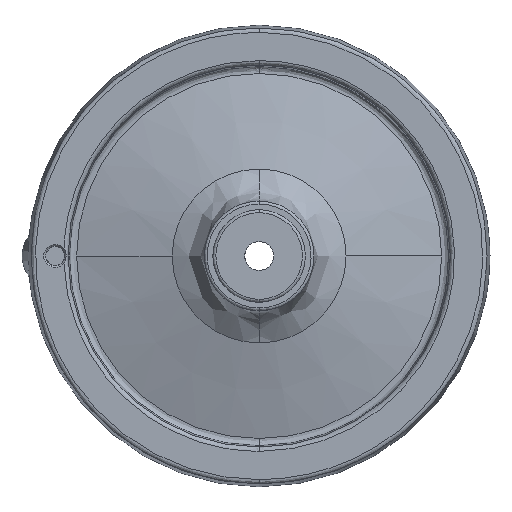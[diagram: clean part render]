
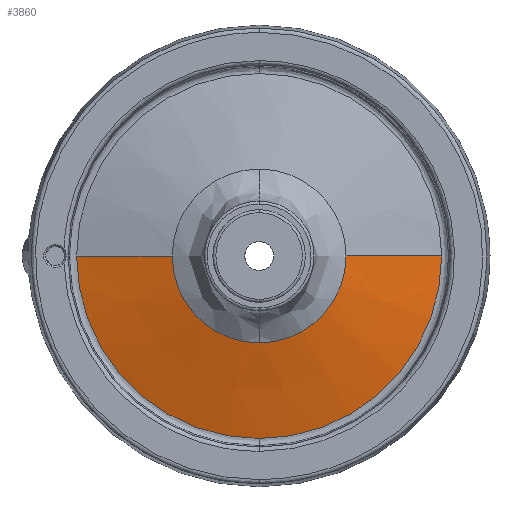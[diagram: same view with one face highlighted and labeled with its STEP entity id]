
A CAD part, left-side view. The second image highlights one B-rep face of the part: STEP entity #3860.
In plain terms, the highlighted conical face has half-angle 75 degrees and reference radius 63.249 mm.
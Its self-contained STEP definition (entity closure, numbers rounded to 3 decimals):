
#98 = AXIS2_PLACEMENT_3D ( 'NONE', #8191, #4499, #1692 ) ;
#103 = DIRECTION ( 'NONE',  ( 0., 0., -1. ) ) ;
#405 = DIRECTION ( 'NONE',  ( 0., 0., -1. ) ) ;
#422 = DIRECTION ( 'NONE',  ( 0., 1., 0. ) ) ;
#443 = LINE ( 'NONE', #2432, #2427 ) ;
#942 = CONICAL_SURFACE ( 'NONE', #7551, 63.249, 1.309 ) ;
#1062 = CARTESIAN_POINT ( 'NONE',  ( 24.263, 0., 0. ) ) ;
#1139 = DIRECTION ( 'NONE',  ( 1., 0., 0. ) ) ;
#1228 = CIRCLE ( 'NONE', #8973, 63.249 ) ;
#1569 = EDGE_CURVE ( 'NONE', #5558, #8737, #3950, .T. ) ;
#1586 = EDGE_CURVE ( 'NONE', #7013, #2436, #6867, .T. ) ;
#1692 = DIRECTION ( 'NONE',  ( 0., 0., -1. ) ) ;
#1792 = DIRECTION ( 'NONE',  ( -1., 0., 0. ) ) ;
#1840 = CARTESIAN_POINT ( 'NONE',  ( 24.263, 0., -63.249 ) ) ;
#2054 = VECTOR ( 'NONE', #8506, 1000. ) ;
#2101 = AXIS2_PLACEMENT_3D ( 'NONE', #1062, #1792, #5409 ) ;
#2427 = VECTOR ( 'NONE', #6607, 1000. ) ;
#2432 = CARTESIAN_POINT ( 'NONE',  ( 24.263, -63.249, 0. ) ) ;
#2436 = VERTEX_POINT ( 'NONE', #5008 ) ;
#2755 = AXIS2_PLACEMENT_3D ( 'NONE', #5131, #2948, #103 ) ;
#2948 = DIRECTION ( 'NONE',  ( 1., 0., 0. ) ) ;
#3253 = ORIENTED_EDGE ( 'NONE', *, *, #7561, .T. ) ;
#3857 = ORIENTED_EDGE ( 'NONE', *, *, #1569, .T. ) ;
#3860 = ADVANCED_FACE ( 'NONE', ( #5390 ), #942, .T. ) ;
#3950 = LINE ( 'NONE', #5680, #2054 ) ;
#4034 = CIRCLE ( 'NONE', #98, 30.118 ) ;
#4431 = ORIENTED_EDGE ( 'NONE', *, *, #8130, .F. ) ;
#4499 = DIRECTION ( 'NONE',  ( 1., 0., 0. ) ) ;
#4666 = DIRECTION ( 'NONE',  ( -1., 0., 0. ) ) ;
#5008 = CARTESIAN_POINT ( 'NONE',  ( 15.385, 0., -30.118 ) ) ;
#5106 = CARTESIAN_POINT ( 'NONE',  ( 24.263, 63.249, 0. ) ) ;
#5131 = CARTESIAN_POINT ( 'NONE',  ( 15.385, 0., 0. ) ) ;
#5300 = CARTESIAN_POINT ( 'NONE',  ( 24.263, 0., 0. ) ) ;
#5390 = FACE_OUTER_BOUND ( 'NONE', #7291, .T. ) ;
#5409 = DIRECTION ( 'NONE',  ( 0., 0., -1. ) ) ;
#5558 = VERTEX_POINT ( 'NONE', #7211 ) ;
#5617 = CARTESIAN_POINT ( 'NONE',  ( 24.263, -63.249, 0. ) ) ;
#5680 = CARTESIAN_POINT ( 'NONE',  ( 24.263, 63.249, 0. ) ) ;
#6161 = ORIENTED_EDGE ( 'NONE', *, *, #1586, .T. ) ;
#6233 = CARTESIAN_POINT ( 'NONE',  ( 15.385, -30.118, 0. ) ) ;
#6607 = DIRECTION ( 'NONE',  ( 0.259, -0.966, 0. ) ) ;
#6867 = CIRCLE ( 'NONE', #2755, 30.118 ) ;
#7013 = VERTEX_POINT ( 'NONE', #6233 ) ;
#7211 = CARTESIAN_POINT ( 'NONE',  ( 15.385, 30.118, 0. ) ) ;
#7252 = ORIENTED_EDGE ( 'NONE', *, *, #7730, .T. ) ;
#7291 = EDGE_LOOP ( 'NONE', ( #4431, #6161, #8579, #3857, #7252, #3253 ) ) ;
#7491 = CIRCLE ( 'NONE', #2101, 63.249 ) ;
#7551 = AXIS2_PLACEMENT_3D ( 'NONE', #5300, #1139, #422 ) ;
#7561 = EDGE_CURVE ( 'NONE', #8978, #9089, #7491, .T. ) ;
#7730 = EDGE_CURVE ( 'NONE', #8737, #8978, #1228, .T. ) ;
#8130 = EDGE_CURVE ( 'NONE', #7013, #9089, #443, .T. ) ;
#8191 = CARTESIAN_POINT ( 'NONE',  ( 15.385, 0., 0. ) ) ;
#8506 = DIRECTION ( 'NONE',  ( 0.259, 0.966, 0. ) ) ;
#8579 = ORIENTED_EDGE ( 'NONE', *, *, #8821, .T. ) ;
#8737 = VERTEX_POINT ( 'NONE', #5106 ) ;
#8821 = EDGE_CURVE ( 'NONE', #2436, #5558, #4034, .T. ) ;
#8888 = CARTESIAN_POINT ( 'NONE',  ( 24.263, 0., 0. ) ) ;
#8973 = AXIS2_PLACEMENT_3D ( 'NONE', #8888, #4666, #405 ) ;
#8978 = VERTEX_POINT ( 'NONE', #1840 ) ;
#9089 = VERTEX_POINT ( 'NONE', #5617 ) ;
